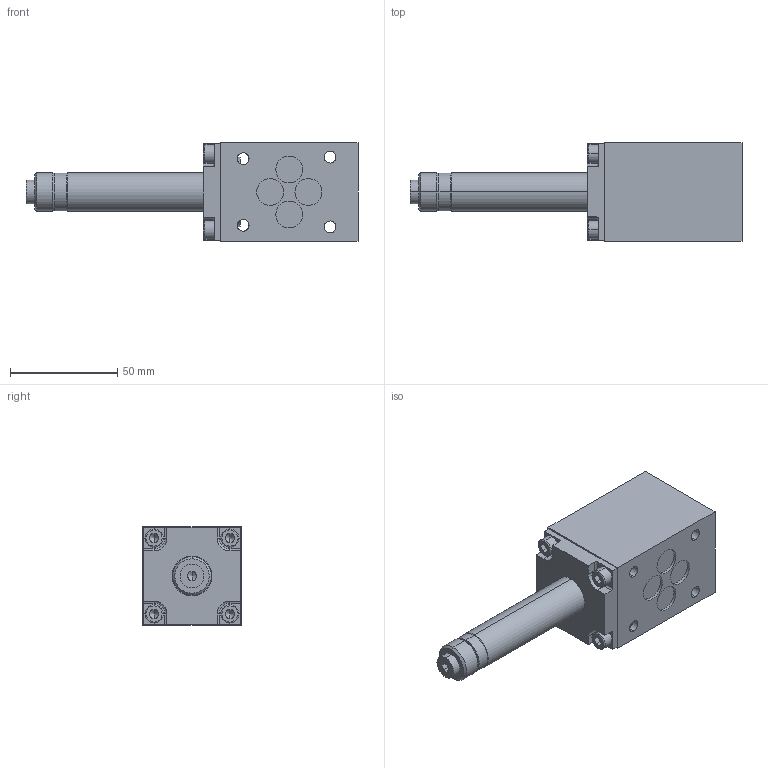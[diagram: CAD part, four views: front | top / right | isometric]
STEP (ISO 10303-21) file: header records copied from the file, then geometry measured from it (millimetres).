
FILE_DESCRIPTION (( 'STEP AP214' ), '1' );
FILE_NAME ('AEXd22061a.STEP', '2017-03-02T07:07:57', ( '' ), ( '' ), 'SwSTEP 2.0', 'SolidWorks 2016', '' );
FILE_SCHEMA (( 'AUTOMOTIVE_DESIGN' ));
Length unit declared in the file: millimetre
Products named in the file (1): AEXd22061a
Bounding box: 154.6 x 46 x 46 mm (x, y, z)
Volume: 163499.7 mm3; surface area: 27761.3 mm2
Topology: 1 solids, 6 shells, 550 faces, 1450 edges, 927 vertices
Faces by surface type: plane 387, cylinder 95, cone 40, torus 22, bspline 6
Entity records: 23488 total; most frequent: CARTESIAN_POINT 3761, ORIENTED_EDGE 2856, DIRECTION 2803, EDGE_CURVE 1428, VECTOR 1061, LINE 1061, VERTEX_POINT 927, AXIS2_PLACEMENT_3D 871
